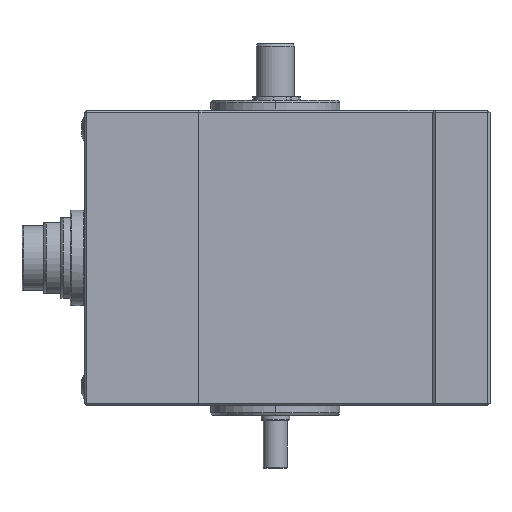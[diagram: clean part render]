
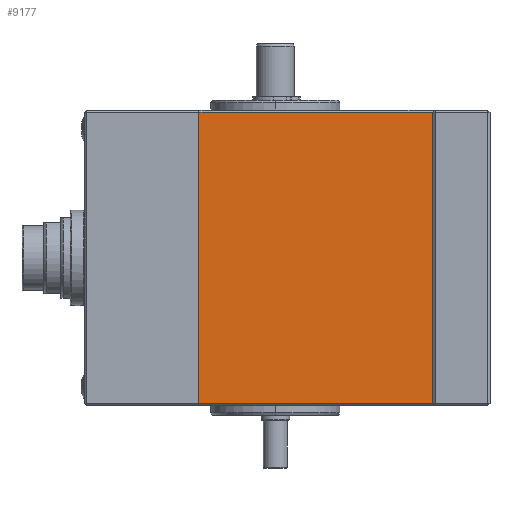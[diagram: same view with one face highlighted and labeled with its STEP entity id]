
A CAD part, left-side view. The second image highlights one B-rep face of the part: STEP entity #9177.
In plain terms, the highlighted planar face has unit normal (-1, 0, 0).
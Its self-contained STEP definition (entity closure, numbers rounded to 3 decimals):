
#97 = CARTESIAN_POINT ( 'NONE',  ( -14., 16., 61.5 ) ) ;
#351 = VERTEX_POINT ( 'NONE', #1859 ) ;
#425 = VECTOR ( 'NONE', #673, 1000. ) ;
#673 = DIRECTION ( 'NONE',  ( 0., -1., 0. ) ) ;
#809 = ORIENTED_EDGE ( 'NONE', *, *, #14705, .T. ) ;
#1093 = CARTESIAN_POINT ( 'NONE',  ( -14., -33., 61.5 ) ) ;
#1859 = CARTESIAN_POINT ( 'NONE',  ( -14., -33., 0.5 ) ) ;
#2243 = CARTESIAN_POINT ( 'NONE',  ( -14., 16., 61.5 ) ) ;
#2400 = CARTESIAN_POINT ( 'NONE',  ( -14., 16., 0.5 ) ) ;
#2593 = ORIENTED_EDGE ( 'NONE', *, *, #12348, .T. ) ;
#4897 = AXIS2_PLACEMENT_3D ( 'NONE', #14056, #10201, #5687 ) ;
#5450 = CARTESIAN_POINT ( 'NONE',  ( -14., -33., 0.5 ) ) ;
#5687 = DIRECTION ( 'NONE',  ( 0., 0., -1. ) ) ;
#6714 = DIRECTION ( 'NONE',  ( 0., 0., 1. ) ) ;
#6767 = DIRECTION ( 'NONE',  ( 0., 0., -1. ) ) ;
#7951 = LINE ( 'NONE', #10242, #10666 ) ;
#8042 = PLANE ( 'NONE',  #4897 ) ;
#8442 = DIRECTION ( 'NONE',  ( 0., 1., 0. ) ) ;
#8509 = VECTOR ( 'NONE', #6714, 1000. ) ;
#9177 = ADVANCED_FACE ( 'NONE', ( #15325 ), #8042, .F. ) ;
#9230 = LINE ( 'NONE', #5450, #425 ) ;
#9851 = VERTEX_POINT ( 'NONE', #1093 ) ;
#10114 = LINE ( 'NONE', #13808, #8509 ) ;
#10201 = DIRECTION ( 'NONE',  ( 1., 0., 0. ) ) ;
#10242 = CARTESIAN_POINT ( 'NONE',  ( -14., 16., 64. ) ) ;
#10587 = ORIENTED_EDGE ( 'NONE', *, *, #12390, .T. ) ;
#10660 = LINE ( 'NONE', #2243, #11637 ) ;
#10666 = VECTOR ( 'NONE', #6767, 1000. ) ;
#11637 = VECTOR ( 'NONE', #8442, 1000. ) ;
#11953 = EDGE_LOOP ( 'NONE', ( #2593, #809, #12241, #10587 ) ) ;
#12241 = ORIENTED_EDGE ( 'NONE', *, *, #14002, .T. ) ;
#12348 = EDGE_CURVE ( 'NONE', #351, #9851, #10114, .T. ) ;
#12390 = EDGE_CURVE ( 'NONE', #15616, #351, #9230, .T. ) ;
#13808 = CARTESIAN_POINT ( 'NONE',  ( -14., -33., 64. ) ) ;
#14002 = EDGE_CURVE ( 'NONE', #14779, #15616, #7951, .T. ) ;
#14056 = CARTESIAN_POINT ( 'NONE',  ( -14., -14., 64. ) ) ;
#14705 = EDGE_CURVE ( 'NONE', #9851, #14779, #10660, .T. ) ;
#14779 = VERTEX_POINT ( 'NONE', #97 ) ;
#15325 = FACE_OUTER_BOUND ( 'NONE', #11953, .T. ) ;
#15616 = VERTEX_POINT ( 'NONE', #2400 ) ;
